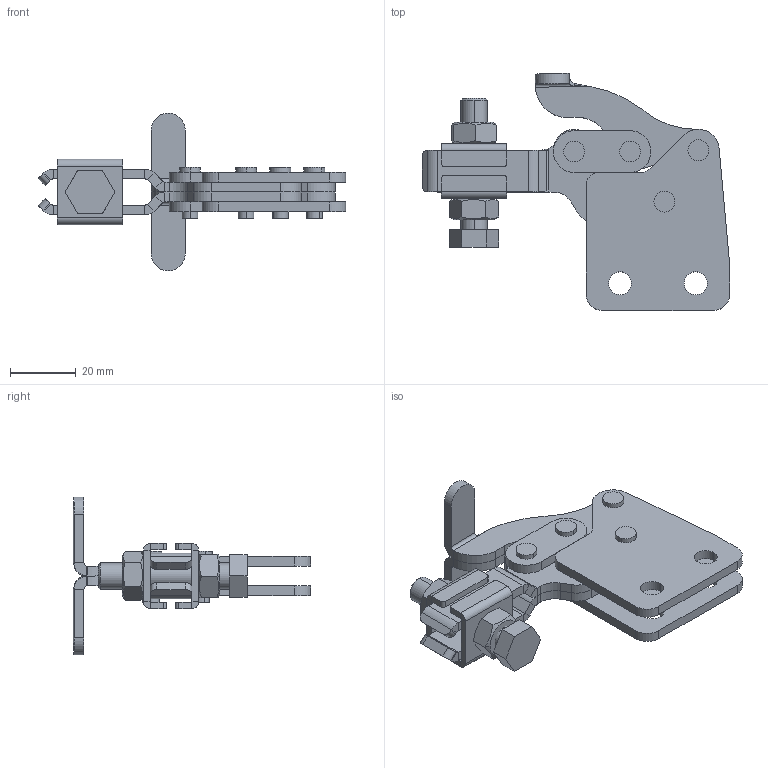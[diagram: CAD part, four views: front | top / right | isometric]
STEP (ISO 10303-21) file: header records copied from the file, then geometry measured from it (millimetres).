
FILE_DESCRIPTION (( 'STEP AP203' ), '1' );
FILE_NAME ('KF-103 R.STEP', '2011-06-15T14:06:37', ( 'Usuario' ), ( '' ), 'SwSTEP 2.0', 'SolidWorks 2011', '' );
FILE_SCHEMA (( 'CONFIG_CONTROL_DESIGN' ));
Length unit declared in the file: millimetre
Products named in the file (11): KF-103 R; 14.10001; 11.50002; 12.50008; 06.50001; 08.10027; 01.10036_Esquerda; 01.10036_Direita; 03.13015_Esquerda; 03.13015_Direita; 02.11053_Valor Predeterminado
Assembly tree (17 placements, depth 2):
  KF-103 R
    14.10001  x2
    03.13015_Direita
    02.11053_Valor Predeterminado  x2
    01.10036_Esquerda
    06.50001  x4
    11.50002  x2
    01.10036_Direita
    12.50008
    03.13015_Esquerda
    08.10027  x2
Bounding box: 93.67 x 72.24 x 48 mm (x, y, z)
Volume: 32394.9 mm3; surface area: 28150.7 mm2
Topology: 17 solids, 17 shells, 361 faces, 852 edges, 526 vertices
Faces by surface type: plane 165, cylinder 162, cone 26, bspline 8
Entity records: 8949 total; most frequent: CARTESIAN_POINT 1618, DIRECTION 1317, ORIENTED_EDGE 1194, EDGE_CURVE 597, AXIS2_PLACEMENT_3D 499, VERTEX_POINT 369, VECTOR 319, LINE 319
